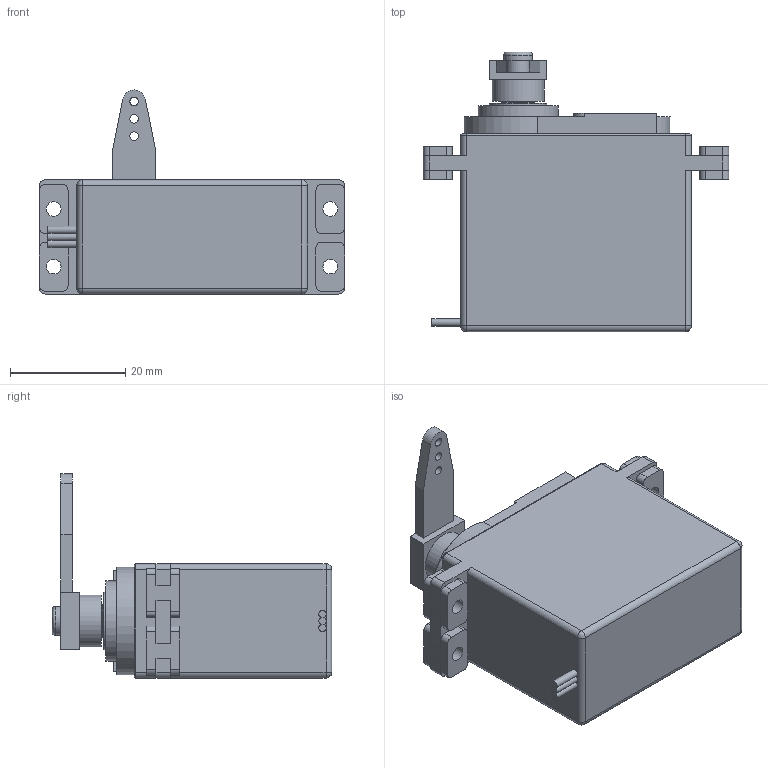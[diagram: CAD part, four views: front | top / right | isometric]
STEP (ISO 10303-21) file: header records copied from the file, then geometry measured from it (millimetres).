
FILE_DESCRIPTION((''),'2;1');
FILE_NAME('C:\Users\Ziegler\Desktop\Zeichnungen\Zubehör\Servo\Hitec_HS-485HB.stp','2015-09-21T20:34:19',('Ziegler'),(''),'Autodesk Inventor 2012','Autodesk Inventor 2012','');
FILE_SCHEMA(('AUTOMOTIVE_DESIGN { 1 0 10303 214 1 1 1 1 }'));
Length unit declared in the file: millimetre
Products named in the file (1): Hitec_HS-485HB
Bounding box: 53 x 48.5 x 35.4 mm (x, y, z)
Volume: 31080.1 mm3; surface area: 8883.6 mm2
Topology: 7 solids, 7 shells, 622 faces, 1714 edges, 1133 vertices
Faces by surface type: plane 376, cylinder 145, bspline 92, torus 5, sphere 4
Full cylindrical faces by diameter (mm): 1.5 x3, 2.55 x4, 5 x2, 5.8 x1, 9 x1, 10 x1, 13.9 x1
Entity records: 20999 total; most frequent: CARTESIAN_POINT 4829, ORIENTED_EDGE 3392, DIRECTION 2875, EDGE_CURVE 1696, VECTOR 1211, LINE 1211, VERTEX_POINT 1130, AXIS2_PLACEMENT_3D 832
